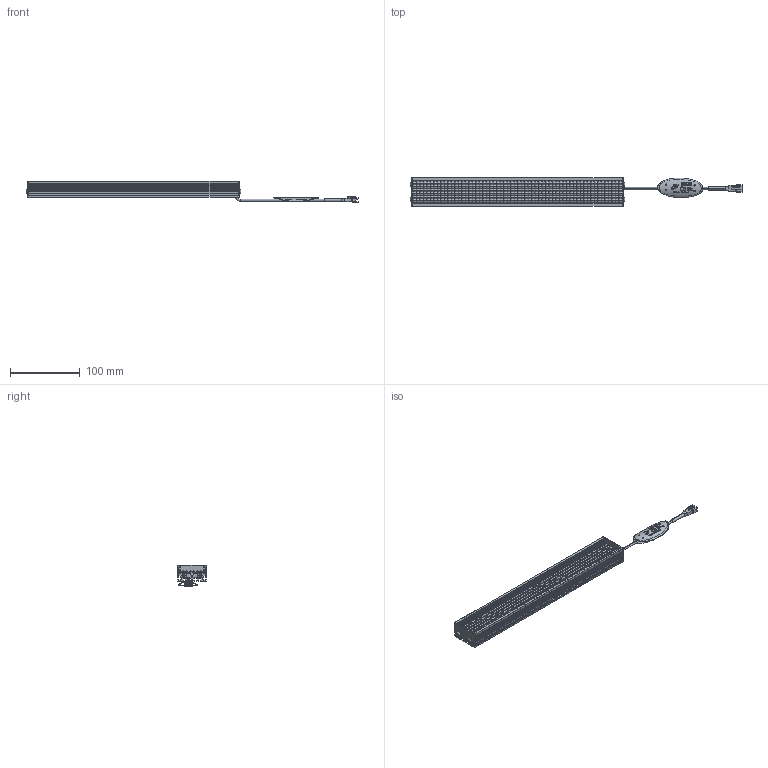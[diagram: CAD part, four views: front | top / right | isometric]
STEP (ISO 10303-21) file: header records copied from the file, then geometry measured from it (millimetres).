
FILE_DESCRIPTION(('STEP AP214'),'1');
FILE_NAME('VBA-30030_DRAWING_3D.step','2023-09-14T01:13:00',(' '),(' '),'Spatial InterOp 3D',' ',' ');
FILE_SCHEMA(('AUTOMOTIVE_DESIGN { 1 0 10303 214 1 1 1 1 }'));
Length unit declared in the file: millimetre
Products named in the file (7): BASE; SIDE PLATE; LED LENS; MXB8146; 3P; CABEL TAG (VS).stp
Assembly tree (15 placements, depth 2):
  (unnamed)
    BASE
    SIDE PLATE  x2
    LED LENS  x6
    MXB8146  x4
    3P
    CABEL TAG (VS).stp
Bounding box: 476 x 41 x 30.5 mm (x, y, z)
Volume: 137039.6 mm3; surface area: 126896 mm2
Topology: 16 solids, 16 shells, 2544 faces, 7757 edges, 5301 vertices
Faces by surface type: plane 976, cylinder 828, sphere 720, torus 14, bspline 6
Entity records: 45901 total; most frequent: CARTESIAN_POINT 9983, ORIENTED_EDGE 6106, DIRECTION 5823, EDGE_CURVE 3053, VERTEX_POINT 2155, AXIS2_PLACEMENT_3D 2149, LINE 1525, VECTOR 1525
